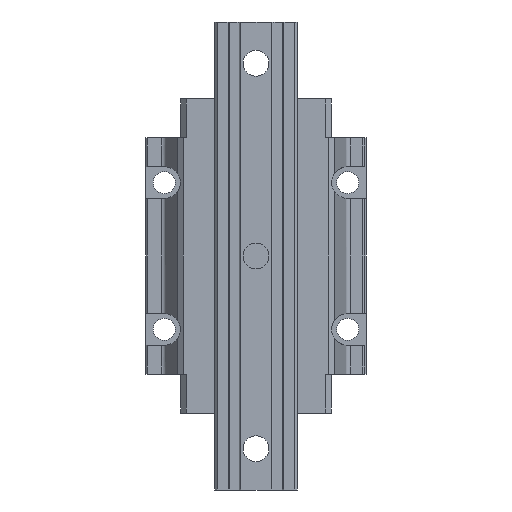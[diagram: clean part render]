
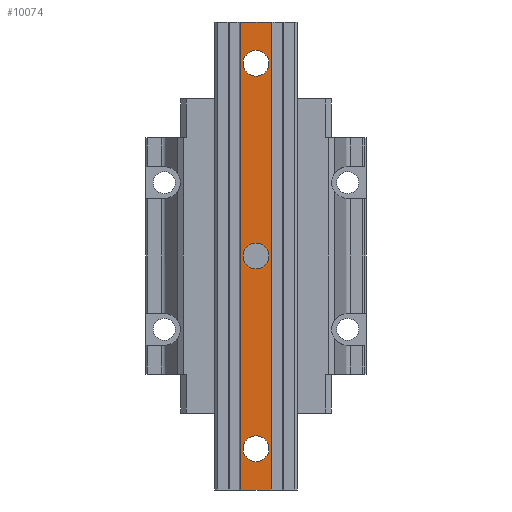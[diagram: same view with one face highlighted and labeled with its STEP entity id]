
A CAD part, front view. The second image highlights one B-rep face of the part: STEP entity #10074.
In plain terms, the highlighted planar face has unit normal (0, -1, 0).
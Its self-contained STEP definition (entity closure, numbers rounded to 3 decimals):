
#41 = EDGE_CURVE ( 'NONE', #5637, #1312, #9325, .T. ) ;
#100 = EDGE_CURVE ( 'NONE', #4920, #1835, #6286, .T. ) ;
#337 = CARTESIAN_POINT ( 'NONE',  ( 0., -38., -127.5 ) ) ;
#422 = CARTESIAN_POINT ( 'NONE',  ( 8.25, -38., -127.5 ) ) ;
#657 = LINE ( 'NONE', #2835, #4962 ) ;
#853 = DIRECTION ( 'NONE',  ( 0., 1., 0. ) ) ;
#868 = AXIS2_PLACEMENT_3D ( 'NONE', #2906, #3777, #9618 ) ;
#993 = VERTEX_POINT ( 'NONE', #2207 ) ;
#1164 = VERTEX_POINT ( 'NONE', #8307 ) ;
#1312 = VERTEX_POINT ( 'NONE', #1815 ) ;
#1359 = CARTESIAN_POINT ( 'NONE',  ( 0., -38., -98. ) ) ;
#1437 = EDGE_CURVE ( 'NONE', #5370, #993, #4862, .T. ) ;
#1747 = CARTESIAN_POINT ( 'NONE',  ( 0., -38., 0. ) ) ;
#1815 = CARTESIAN_POINT ( 'NONE',  ( 0., -38., -112. ) ) ;
#1818 = EDGE_CURVE ( 'NONE', #10395, #2546, #10096, .T. ) ;
#1823 = EDGE_LOOP ( 'NONE', ( #10119, #3839, #3248, #3714 ) ) ;
#1835 = VERTEX_POINT ( 'NONE', #10177 ) ;
#1843 = EDGE_CURVE ( 'NONE', #8212, #1164, #5899, .T. ) ;
#1950 = DIRECTION ( 'NONE',  ( 0., 0., -1. ) ) ;
#2207 = CARTESIAN_POINT ( 'NONE',  ( 8.25, -38., 127.5 ) ) ;
#2335 = DIRECTION ( 'NONE',  ( 0., 1., 0. ) ) ;
#2392 = CARTESIAN_POINT ( 'NONE',  ( 0., -38., 0. ) ) ;
#2546 = VERTEX_POINT ( 'NONE', #6171 ) ;
#2637 = CARTESIAN_POINT ( 'NONE',  ( 0., -38., 98. ) ) ;
#2647 = DIRECTION ( 'NONE',  ( 0., 0., 1. ) ) ;
#2835 = CARTESIAN_POINT ( 'NONE',  ( -8.25, -38., -127.5 ) ) ;
#2906 = CARTESIAN_POINT ( 'NONE',  ( -8.25, -38., -127.5 ) ) ;
#3072 = AXIS2_PLACEMENT_3D ( 'NONE', #5968, #853, #6803 ) ;
#3185 = EDGE_CURVE ( 'NONE', #2546, #10395, #6064, .T. ) ;
#3248 = ORIENTED_EDGE ( 'NONE', *, *, #10684, .T. ) ;
#3280 = DIRECTION ( 'NONE',  ( 0., 0., 1. ) ) ;
#3307 = EDGE_LOOP ( 'NONE', ( #10667, #4169 ) ) ;
#3713 = FACE_BOUND ( 'NONE', #8752, .T. ) ;
#3714 = ORIENTED_EDGE ( 'NONE', *, *, #1437, .F. ) ;
#3777 = DIRECTION ( 'NONE',  ( 0., -1., 0. ) ) ;
#3798 = ORIENTED_EDGE ( 'NONE', *, *, #41, .T. ) ;
#3839 = ORIENTED_EDGE ( 'NONE', *, *, #100, .T. ) ;
#3914 = DIRECTION ( 'NONE',  ( 0., 1., 0. ) ) ;
#3930 = DIRECTION ( 'NONE',  ( 0., 0., 1. ) ) ;
#4102 = CIRCLE ( 'NONE', #7952, 7. ) ;
#4169 = ORIENTED_EDGE ( 'NONE', *, *, #1818, .T. ) ;
#4684 = AXIS2_PLACEMENT_3D ( 'NONE', #5551, #10705, #10353 ) ;
#4746 = LINE ( 'NONE', #422, #6716 ) ;
#4862 = LINE ( 'NONE', #6294, #6818 ) ;
#4920 = VERTEX_POINT ( 'NONE', #5234 ) ;
#4962 = VECTOR ( 'NONE', #1950, 1000. ) ;
#5054 = ORIENTED_EDGE ( 'NONE', *, *, #5716, .T. ) ;
#5189 = CARTESIAN_POINT ( 'NONE',  ( -8.25, -38., 127.5 ) ) ;
#5234 = CARTESIAN_POINT ( 'NONE',  ( -8.25, -38., -127.5 ) ) ;
#5370 = VERTEX_POINT ( 'NONE', #5189 ) ;
#5551 = CARTESIAN_POINT ( 'NONE',  ( 0., -38., -105. ) ) ;
#5637 = VERTEX_POINT ( 'NONE', #1359 ) ;
#5665 = FACE_BOUND ( 'NONE', #3307, .T. ) ;
#5716 = EDGE_CURVE ( 'NONE', #1164, #8212, #10702, .T. ) ;
#5899 = CIRCLE ( 'NONE', #7014, 7. ) ;
#5968 = CARTESIAN_POINT ( 'NONE',  ( 0., -38., 105. ) ) ;
#6064 = CIRCLE ( 'NONE', #7297, 7. ) ;
#6171 = CARTESIAN_POINT ( 'NONE',  ( 0., -38., 112. ) ) ;
#6210 = EDGE_LOOP ( 'NONE', ( #5054, #9712 ) ) ;
#6286 = LINE ( 'NONE', #337, #10739 ) ;
#6294 = CARTESIAN_POINT ( 'NONE',  ( 0., -38., 127.5 ) ) ;
#6359 = EDGE_CURVE ( 'NONE', #1312, #5637, #4102, .T. ) ;
#6716 = VECTOR ( 'NONE', #3930, 1000. ) ;
#6803 = DIRECTION ( 'NONE',  ( 0., 0., 1. ) ) ;
#6818 = VECTOR ( 'NONE', #8825, 1000. ) ;
#7014 = AXIS2_PLACEMENT_3D ( 'NONE', #1747, #7689, #2647 ) ;
#7297 = AXIS2_PLACEMENT_3D ( 'NONE', #8925, #3914, #9769 ) ;
#7391 = DIRECTION ( 'NONE',  ( 1., 0., 0. ) ) ;
#7396 = CARTESIAN_POINT ( 'NONE',  ( 0., -38., -105. ) ) ;
#7689 = DIRECTION ( 'NONE',  ( 0., 1., 0. ) ) ;
#7697 = ORIENTED_EDGE ( 'NONE', *, *, #6359, .T. ) ;
#7939 = PLANE ( 'NONE',  #868 ) ;
#7952 = AXIS2_PLACEMENT_3D ( 'NONE', #7396, #2335, #8238 ) ;
#8151 = FACE_OUTER_BOUND ( 'NONE', #1823, .T. ) ;
#8212 = VERTEX_POINT ( 'NONE', #9007 ) ;
#8238 = DIRECTION ( 'NONE',  ( 0., 0., 1. ) ) ;
#8300 = DIRECTION ( 'NONE',  ( 0., 1., 0. ) ) ;
#8307 = CARTESIAN_POINT ( 'NONE',  ( 0., -38., 7. ) ) ;
#8752 = EDGE_LOOP ( 'NONE', ( #3798, #7697 ) ) ;
#8825 = DIRECTION ( 'NONE',  ( 1., 0., 0. ) ) ;
#8925 = CARTESIAN_POINT ( 'NONE',  ( 0., -38., 105. ) ) ;
#9007 = CARTESIAN_POINT ( 'NONE',  ( 0., -38., -7. ) ) ;
#9325 = CIRCLE ( 'NONE', #4684, 7. ) ;
#9395 = EDGE_CURVE ( 'NONE', #5370, #4920, #657, .T. ) ;
#9491 = AXIS2_PLACEMENT_3D ( 'NONE', #2392, #8300, #3280 ) ;
#9618 = DIRECTION ( 'NONE',  ( 0., 0., -1. ) ) ;
#9712 = ORIENTED_EDGE ( 'NONE', *, *, #1843, .T. ) ;
#9769 = DIRECTION ( 'NONE',  ( 0., 0., 1. ) ) ;
#10074 = ADVANCED_FACE ( 'NONE', ( #3713, #5665, #10124, #8151 ), #7939, .T. ) ;
#10096 = CIRCLE ( 'NONE', #3072, 7. ) ;
#10119 = ORIENTED_EDGE ( 'NONE', *, *, #9395, .T. ) ;
#10124 = FACE_BOUND ( 'NONE', #6210, .T. ) ;
#10177 = CARTESIAN_POINT ( 'NONE',  ( 8.25, -38., -127.5 ) ) ;
#10353 = DIRECTION ( 'NONE',  ( 0., 0., 1. ) ) ;
#10395 = VERTEX_POINT ( 'NONE', #2637 ) ;
#10667 = ORIENTED_EDGE ( 'NONE', *, *, #3185, .T. ) ;
#10684 = EDGE_CURVE ( 'NONE', #1835, #993, #4746, .T. ) ;
#10702 = CIRCLE ( 'NONE', #9491, 7. ) ;
#10705 = DIRECTION ( 'NONE',  ( 0., 1., 0. ) ) ;
#10739 = VECTOR ( 'NONE', #7391, 1000. ) ;
